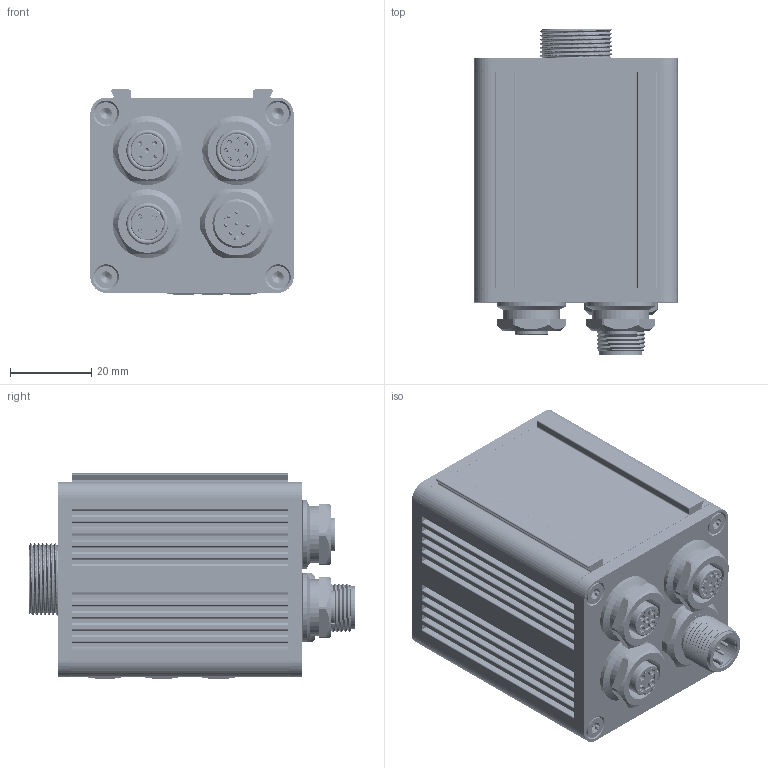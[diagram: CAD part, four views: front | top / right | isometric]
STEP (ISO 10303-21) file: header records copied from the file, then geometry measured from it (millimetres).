
FILE_DESCRIPTION((''),'2;1');
FILE_NAME('0000130270_ASM','2019-01-31T',('11000065'),(''),'CREO PARAMETRIC BY PTC INC, 2018070','CREO PARAMETRIC BY PTC INC, 2018070','');
FILE_SCHEMA(('AUTOMOTIVE_DESIGN { 1 0 10303 214 1 1 1 1 }'));
Products named in the file (15): 0000130273; 0000130278; 0000130260; 0000130281_ASM; 0000130252; 0000130274; 0000130272; 0000130255; 0000130262; 0000130276_ASM; 0000130369; 0000130371; 0000212282; 0000130265; 0000130270_ASM
Assembly tree (22 placements, depth 3):
  0000130270_ASM
    0000130273  x8
    0000130281_ASM
      0000130278
      0000130260
    0000130276_ASM
      0000130252
      0000130274  x2
      0000130272
      0000130255
      0000130262
    0000130369
    0000130371
    0000212282
    0000130265
Bounding box: 50 x 80.31 x 50.4 mm (x, y, z)
Volume: 54633.1 mm3; surface area: 65096.6 mm2
Topology: 21 solids, 53 shells, 6076 faces, 16808 edges, 11112 vertices
Faces by surface type: plane 3637, cylinder 1539, cone 369, extrusion 224, torus 208, bspline 71, sphere 28
Entity records: 270988 total; most frequent: CARTESIAN_POINT 62175, ORIENTED_EDGE 31458, DIRECTION 29419, PRESENTATION_STYLE_ASSIGNMENT 17509, STYLED_ITEM 15837, CURVE_STYLE 15823, EDGE_CURVE 15729, VECTOR 11191
